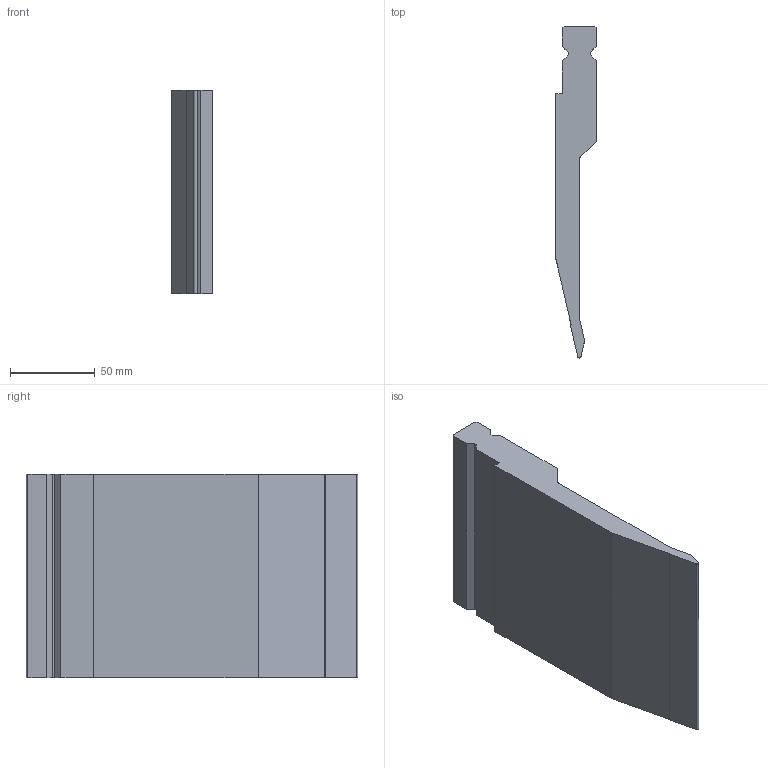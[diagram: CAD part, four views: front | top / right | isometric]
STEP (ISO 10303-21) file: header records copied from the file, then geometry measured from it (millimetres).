
FILE_DESCRIPTION (( 'STEP AP203' ), '1' );
FILE_NAME ('J10W_30.STEP', '2018-04-17T17:06:09', ( '' ), ( '' ), 'SwSTEP 2.0', 'SolidWorks 2017', '' );
FILE_SCHEMA (( 'CONFIG_CONTROL_DESIGN' ));
Length unit declared in the file: millimetre
Products named in the file (1): J10W_30
Bounding box: 24 x 196 x 120 mm (x, y, z)
Volume: 350895.3 mm3; surface area: 57229.6 mm2
Topology: 1 solids, 1 shells, 27 faces, 75 edges, 50 vertices
Faces by surface type: plane 24, cylinder 3
Entity records: 932 total; most frequent: CARTESIAN_POINT 153, ORIENTED_EDGE 150, DIRECTION 137, EDGE_CURVE 75, LINE 69, VECTOR 69, VERTEX_POINT 50, AXIS2_PLACEMENT_3D 34
